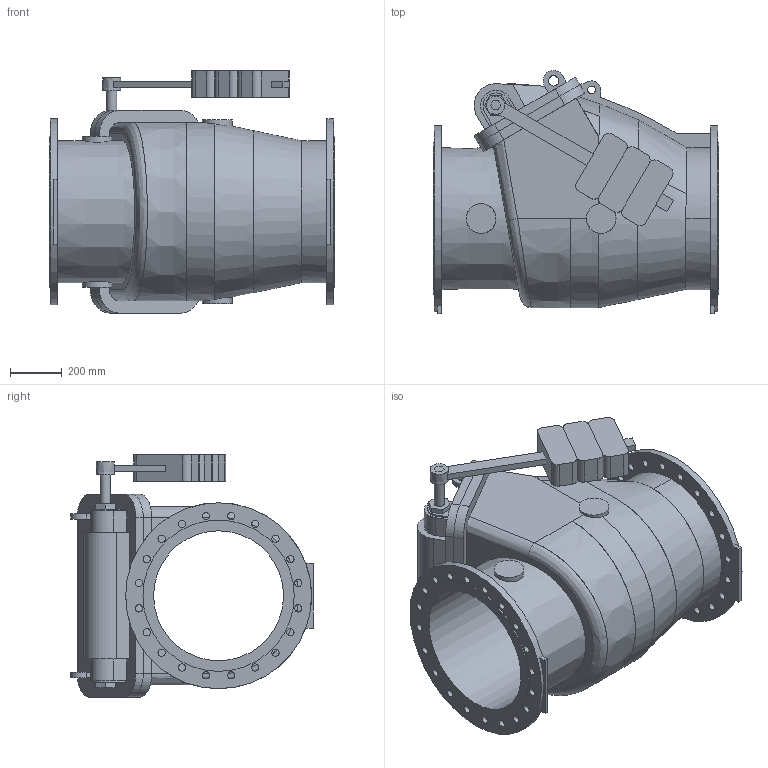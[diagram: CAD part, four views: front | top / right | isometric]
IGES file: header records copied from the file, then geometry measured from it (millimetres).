
Start section: SolidWorks IGES file using analytic representation for surfaces
Global section: file name: \\avksan2\techshare\PBM outline export from Enovia\O_41_36_DN500_X0XXX_AA1.igs; native system: SolidWorks 2012; preprocessor: SolidWorks 2012; author: pbm; date: 180816.104018; units: millimetre
Bounding box: 1100 x 934.56 x 932 mm (x, y, z)
Surface area: 6070937.3 mm2 (no closed solid volume)
Topology: 0 solids, 0 shells, 253 faces, 1402 edges, 1298 vertices
Faces by surface type: bspline 163, revolution 90
